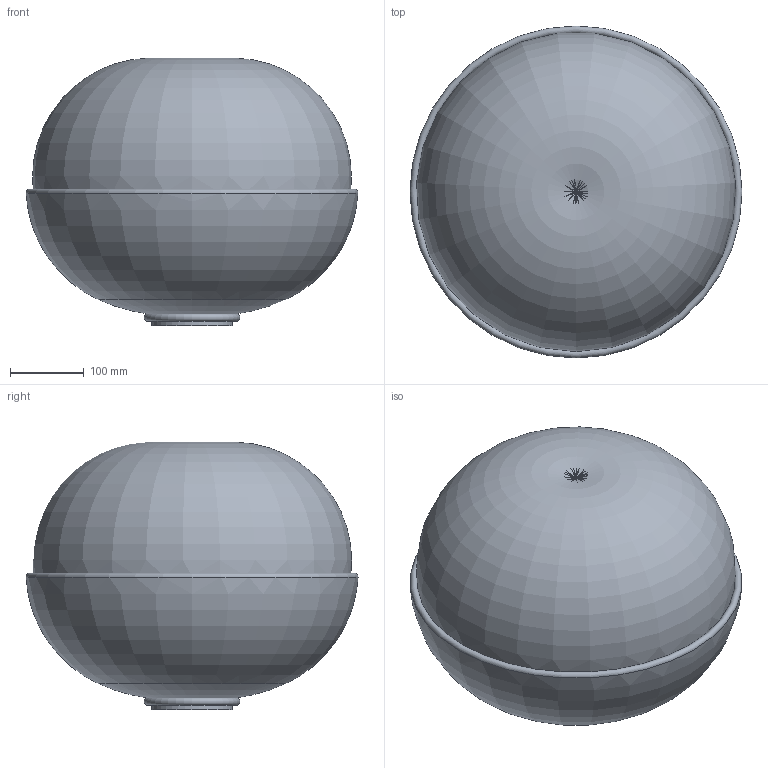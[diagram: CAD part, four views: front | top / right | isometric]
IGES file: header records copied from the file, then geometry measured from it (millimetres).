
Start section: Data from Parasolid IGES Translator 22.0.50, Copyright(c) 2006 Siemens P LM Software. All Rights Reserved.
Global section: file name: noorth-washbasin-H 18,5 D 45 W 45_4352.igs; native system: By Siemens PLM Incorporated; preprocessor: XPlus GENERIC/IGES 22.0.50; author: Noname; organization: Noname; date: 20240827.212239; units: metre
Bounding box: 449.99 x 449.99 x 362.54 mm (x, y, z)
Volume: 32689466.9 mm3; surface area: 799160.8 mm2
Topology: 1 solids, 1 shells, 18 faces, 44 edges, 29 vertices
Faces by surface type: torus 8, cylinder 4, plane 3, cone 3
Full cylindrical faces by diameter (mm): 10 x2, 46 x1, 110 x1
